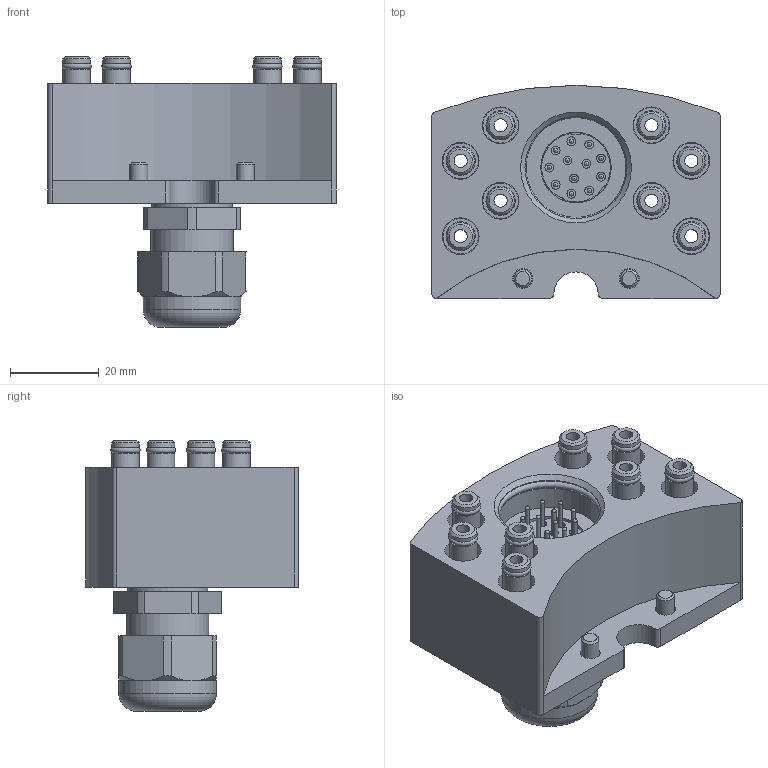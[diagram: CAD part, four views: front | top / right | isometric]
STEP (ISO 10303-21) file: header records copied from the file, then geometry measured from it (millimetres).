
FILE_DESCRIPTION(/* description */ (''),/* implementation_level */ '2;1');
FILE_NAME(/* name */ '\\dc01\daten\CAD\Standard\Daten\3D-Datenbank\Webseite 2020\MGW\MGW100\G-MEK100-O-8Pk4-1E12.stp',/* time_stamp */ '2020-05-12T13:11:00+02:00',/* author */ ('ysplieth'),/* organization */ (''),/* preprocessor_version */ 'ST-DEVELOPER v17',/* originating_system */ 'Autodesk Inventor 2018',/* authorisation */ '');
FILE_SCHEMA (('AUTOMOTIVE_DESIGN { 1 0 10303 214 3 1 1 }'));
Length unit declared in the file: millimetre
Products named in the file (1): G-MEK100-O-8Pk4-1E12
Bounding box: 65 x 48 x 61 mm (x, y, z)
Volume: 65218.6 mm3; surface area: 32802 mm2
Topology: 10 solids, 18 shells, 558 faces, 1508 edges, 1032 vertices
Faces by surface type: cylinder 237, plane 207, cone 69, torus 33, sphere 12
Full cylindrical faces by diameter (mm): 1 x12, 1.6 x12, 2 x17, 2.013 x2, 3 x8, 4 x10, 4.2 x16, 4.5 x2, 4.8 x8, 5.5 x8, 5.9 x8, 6 x8, 6.2 x16, 7 x2, 8 x10, 8.3 x8, 9 x8, 10 x1, 15.9 x1, 17.1 x1, 18.1 x1, 18.5 x1, 22 x1, 23 x2, 25.5 x2
Entity records: 20069 total; most frequent: CARTESIAN_POINT 4598, DIRECTION 3343, ORIENTED_EDGE 2976, EDGE_CURVE 1488, AXIS2_PLACEMENT_3D 1403, VERTEX_POINT 1032, CIRCLE 844, EDGE_LOOP 707
